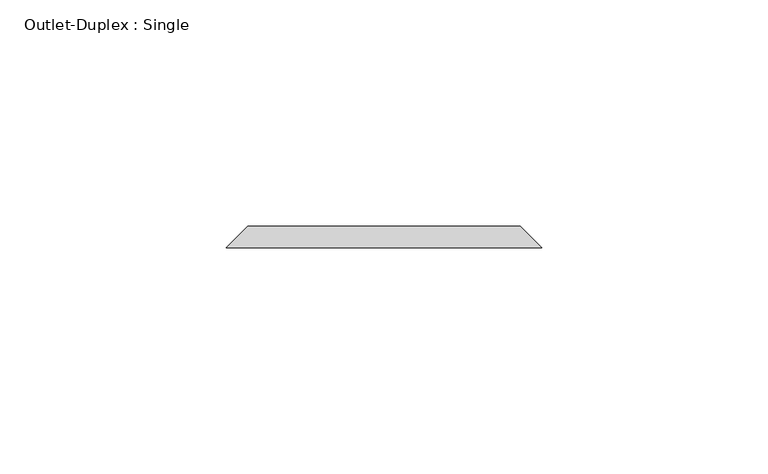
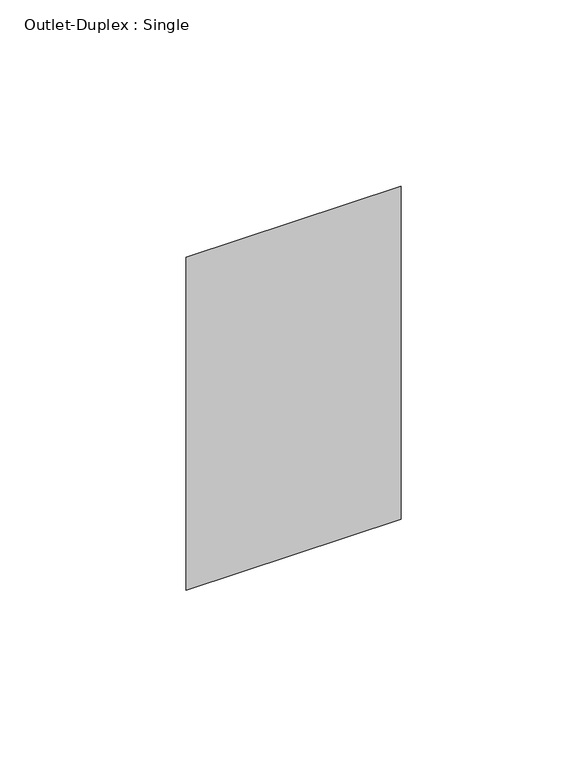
"""IFC4 building model written with IfcOpenShell, lengths in millimetres: proxy geometry, Outlet-Duplex : Single."""

from ifc_helpers import new_model, si_unit, origin, place, context, project, spatial, faceted_brep, source, transform, mapped, element, save


def outlet_duplex_single_f6f302db(model_context):
    return source(origin(), model_context, "Body", "Brep", [
        faceted_brep([(-30.1625, 138.1125, 357.1875), (30.1625, 138.1125, 357.1875), (30.1625, 138.1125, 252.4125), (-30.1625, 138.1125, 252.4125), (-34.925, 133.35, 361.95), (-34.925, 133.35, 247.65), (34.925, 133.35, 247.65), (34.925, 133.35, 361.95)], [[[0, 1, 2, 3]], [[4, 5, 6, 7]], [[4, 7, 1, 0]], [[7, 6, 2, 1]], [[6, 5, 3, 2]], [[5, 4, 0, 3]]]),
    ])


if __name__ == "__main__":
    model = new_model("IFC4")
    model_context = context("Model", 3, world=origin())
    ifc_project = project(units=[si_unit("LENGTHUNIT", "METRE", prefix="MILLI")], contexts=[model_context])
    site = spatial("IfcSite", under=ifc_project)
    building = spatial("IfcBuilding", under=site)
    placement = place(None, origin())
    outlet_duplex_single_shape = outlet_duplex_single_f6f302db(model_context)
    element("IfcBuildingElementProxy", 1, Name="Outlet-Duplex : Single", ObjectType="Outlet-Duplex : Single", at=placement, inside=building, context=model_context, shape_type="MappedRepresentation", body=[
        mapped(outlet_duplex_single_shape, transform((0.0, 0.0, 0.0), x_axis=(1.0, 0.0, 0.0), y_axis=(0.0, 1.0, 0.0), z_axis=(0.0, 0.0, 1.0))),
    ])
    save(model, "model.ifc")
